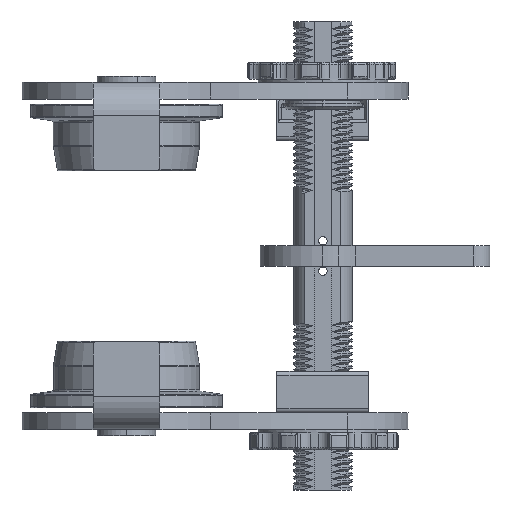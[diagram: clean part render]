
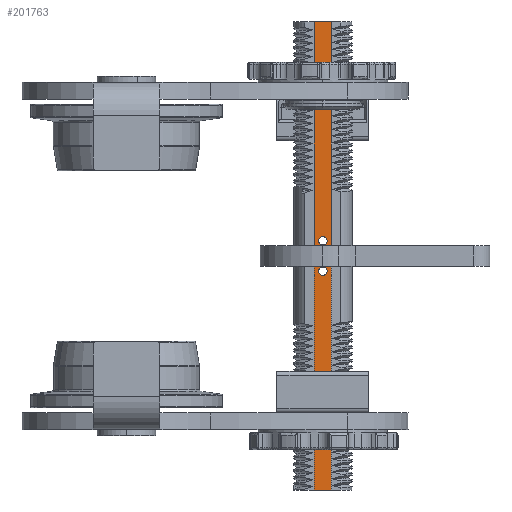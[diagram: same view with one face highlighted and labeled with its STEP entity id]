
A CAD part, left-side view. The second image highlights one B-rep face of the part: STEP entity #201763.
In plain terms, the highlighted planar face has unit normal (-1, 0, 0).
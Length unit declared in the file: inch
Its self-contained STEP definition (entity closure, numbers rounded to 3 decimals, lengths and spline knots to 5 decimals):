
#2654 = DIRECTION ( 'NONE',  ( 0., 1., 0. ) ) ;
#4619 = CARTESIAN_POINT ( 'NONE',  ( -0.6775, 0.25, 0. ) ) ;
#6116 = VERTEX_POINT ( 'NONE', #80429 ) ;
#9736 = AXIS2_PLACEMENT_3D ( 'NONE', #116071, #261094, #79401 ) ;
#13161 = AXIS2_PLACEMENT_3D ( 'NONE', #35871, #37189, #226849 ) ;
#13938 = DIRECTION ( 'NONE',  ( 0., 0., -1. ) ) ;
#15491 = CARTESIAN_POINT ( 'NONE',  ( -0.6775, 0., 7.455 ) ) ;
#28358 = CARTESIAN_POINT ( 'NONE',  ( -0.6775, 0., 6.672 ) ) ;
#34256 = DIRECTION ( 'NONE',  ( 1., 0., 0. ) ) ;
#35871 = CARTESIAN_POINT ( 'NONE',  ( -0.6775, 0., 6.545 ) ) ;
#37018 = DIRECTION ( 'NONE',  ( 0., 1., 0. ) ) ;
#37189 = DIRECTION ( 'NONE',  ( 1., 0., 0. ) ) ;
#38719 = CARTESIAN_POINT ( 'NONE',  ( -0.6775, -0.25, 14. ) ) ;
#41068 = EDGE_CURVE ( 'NONE', #188534, #6116, #260830, .T. ) ;
#41594 = CARTESIAN_POINT ( 'NONE',  ( -0.6775, 0.25, 0. ) ) ;
#44280 = DIRECTION ( 'NONE',  ( 0., 0., -1. ) ) ;
#44882 = EDGE_LOOP ( 'NONE', ( #191563, #154193 ) ) ;
#47207 = VERTEX_POINT ( 'NONE', #112187 ) ;
#47775 = CIRCLE ( 'NONE', #13161, 0.127 ) ;
#53512 = DIRECTION ( 'NONE',  ( 0., 0., -1. ) ) ;
#55045 = EDGE_CURVE ( 'NONE', #124530, #118135, #228943, .T. ) ;
#56484 = ORIENTED_EDGE ( 'NONE', *, *, #260398, .T. ) ;
#60939 = EDGE_CURVE ( 'NONE', #47207, #118135, #107565, .T. ) ;
#64616 = FACE_BOUND ( 'NONE', #65576, .T. ) ;
#65576 = EDGE_LOOP ( 'NONE', ( #124145, #156946 ) ) ;
#71260 = VERTEX_POINT ( 'NONE', #148781 ) ;
#77686 = CARTESIAN_POINT ( 'NONE',  ( -0.6775, 0.25, 0. ) ) ;
#77900 = CIRCLE ( 'NONE', #268284, 0.127 ) ;
#79401 = DIRECTION ( 'NONE',  ( 0., 0., -1. ) ) ;
#80429 = CARTESIAN_POINT ( 'NONE',  ( -0.6775, 0., 7.328 ) ) ;
#96115 = AXIS2_PLACEMENT_3D ( 'NONE', #15491, #221463, #53512 ) ;
#105606 = CARTESIAN_POINT ( 'NONE',  ( -0.6775, 0.25, 14. ) ) ;
#107565 = LINE ( 'NONE', #4619, #144510 ) ;
#112187 = CARTESIAN_POINT ( 'NONE',  ( -0.6775, 0.25, 0. ) ) ;
#113147 = AXIS2_PLACEMENT_3D ( 'NONE', #41594, #248940, #44280 ) ;
#116071 = CARTESIAN_POINT ( 'NONE',  ( -0.6775, 0., 7.455 ) ) ;
#117120 = ORIENTED_EDGE ( 'NONE', *, *, #55045, .T. ) ;
#118135 = VERTEX_POINT ( 'NONE', #190405 ) ;
#123825 = DIRECTION ( 'NONE',  ( 0., 0., 1. ) ) ;
#124145 = ORIENTED_EDGE ( 'NONE', *, *, #157082, .T. ) ;
#124530 = VERTEX_POINT ( 'NONE', #38719 ) ;
#135102 = CARTESIAN_POINT ( 'NONE',  ( -0.6775, 0., 6.418 ) ) ;
#144510 = VECTOR ( 'NONE', #169933, 39.37008 ) ;
#145522 = CARTESIAN_POINT ( 'NONE',  ( -0.6775, -0.25, 0. ) ) ;
#145942 = FACE_OUTER_BOUND ( 'NONE', #207750, .T. ) ;
#147286 = FACE_BOUND ( 'NONE', #44882, .T. ) ;
#148781 = CARTESIAN_POINT ( 'NONE',  ( -0.6775, -0.25, 0. ) ) ;
#154193 = ORIENTED_EDGE ( 'NONE', *, *, #41068, .T. ) ;
#156946 = ORIENTED_EDGE ( 'NONE', *, *, #214923, .T. ) ;
#157082 = EDGE_CURVE ( 'NONE', #254143, #253903, #47775, .T. ) ;
#164490 = LINE ( 'NONE', #145522, #256505 ) ;
#169933 = DIRECTION ( 'NONE',  ( 0., 0., 1. ) ) ;
#172689 = ORIENTED_EDGE ( 'NONE', *, *, #60939, .F. ) ;
#188534 = VERTEX_POINT ( 'NONE', #192831 ) ;
#190405 = CARTESIAN_POINT ( 'NONE',  ( -0.6775, 0.25, 14. ) ) ;
#191563 = ORIENTED_EDGE ( 'NONE', *, *, #206881, .T. ) ;
#192831 = CARTESIAN_POINT ( 'NONE',  ( -0.6775, 0., 7.582 ) ) ;
#201763 = ADVANCED_FACE ( 'NONE', ( #64616, #147286, #145942 ), #229932, .F. ) ;
#206881 = EDGE_CURVE ( 'NONE', #6116, #188534, #225872, .T. ) ;
#207750 = EDGE_LOOP ( 'NONE', ( #117120, #172689, #212721, #56484 ) ) ;
#212705 = EDGE_CURVE ( 'NONE', #71260, #47207, #260722, .T. ) ;
#212721 = ORIENTED_EDGE ( 'NONE', *, *, #212705, .F. ) ;
#214923 = EDGE_CURVE ( 'NONE', #253903, #254143, #77900, .T. ) ;
#221463 = DIRECTION ( 'NONE',  ( 1., 0., 0. ) ) ;
#223879 = CARTESIAN_POINT ( 'NONE',  ( -0.6775, 0., 6.545 ) ) ;
#225872 = CIRCLE ( 'NONE', #96115, 0.127 ) ;
#226849 = DIRECTION ( 'NONE',  ( 0., 0., -1. ) ) ;
#228943 = LINE ( 'NONE', #105606, #261207 ) ;
#229932 = PLANE ( 'NONE',  #113147 ) ;
#239090 = VECTOR ( 'NONE', #37018, 39.37008 ) ;
#248940 = DIRECTION ( 'NONE',  ( 1., 0., 0. ) ) ;
#253903 = VERTEX_POINT ( 'NONE', #28358 ) ;
#254143 = VERTEX_POINT ( 'NONE', #135102 ) ;
#256505 = VECTOR ( 'NONE', #123825, 39.37008 ) ;
#260398 = EDGE_CURVE ( 'NONE', #71260, #124530, #164490, .T. ) ;
#260722 = LINE ( 'NONE', #77686, #239090 ) ;
#260830 = CIRCLE ( 'NONE', #9736, 0.127 ) ;
#261094 = DIRECTION ( 'NONE',  ( 1., 0., 0. ) ) ;
#261207 = VECTOR ( 'NONE', #2654, 39.37008 ) ;
#268284 = AXIS2_PLACEMENT_3D ( 'NONE', #223879, #34256, #13938 ) ;
